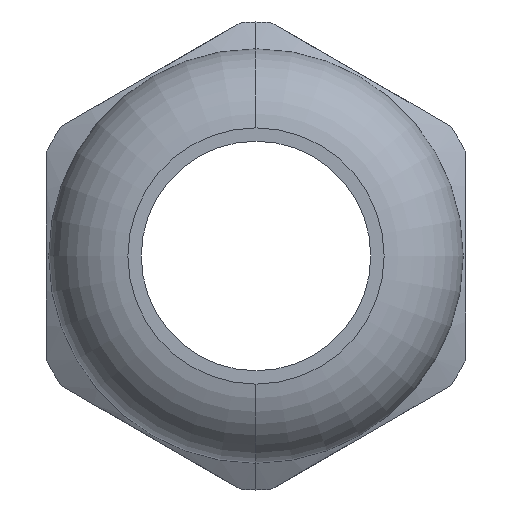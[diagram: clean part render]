
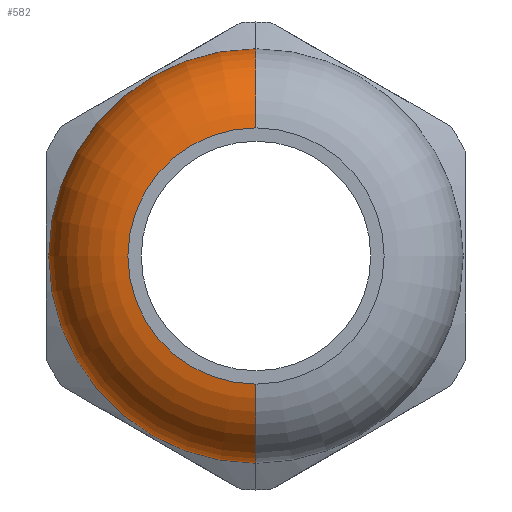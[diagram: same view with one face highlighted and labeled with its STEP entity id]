
A CAD part, left-side view. The second image highlights one B-rep face of the part: STEP entity #582.
In plain terms, the highlighted toroidal (fillet/blend) face has major radius 6.731 mm and minor radius 5.08 mm.
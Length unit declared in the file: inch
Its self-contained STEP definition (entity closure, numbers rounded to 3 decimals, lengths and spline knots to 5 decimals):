
#269 = EDGE_CURVE ( 'NONE', #270, #526, #3051, .T. ) ;
#270 = VERTEX_POINT ( 'NONE', #3046 ) ;
#526 = VERTEX_POINT ( 'NONE', #3851 ) ;
#582 = ADVANCED_FACE ( 'NONE', ( #4095 ), #4075, .T. ) ;
#583 = EDGE_LOOP ( 'NONE', ( #584, #585, #688, #668 ) ) ;
#584 = ORIENTED_EDGE ( 'NONE', *, *, #269, .T. ) ;
#585 = ORIENTED_EDGE ( 'NONE', *, *, #698, .T. ) ;
#668 = ORIENTED_EDGE ( 'NONE', *, *, #669, .F. ) ;
#669 = EDGE_CURVE ( 'NONE', #270, #690, #4434, .T. ) ;
#688 = ORIENTED_EDGE ( 'NONE', *, *, #689, .F. ) ;
#689 = EDGE_CURVE ( 'NONE', #690, #699, #5665, .T. ) ;
#690 = VERTEX_POINT ( 'NONE', #5660 ) ;
#698 = EDGE_CURVE ( 'NONE', #526, #699, #5759, .T. ) ;
#699 = VERTEX_POINT ( 'NONE', #5754 ) ;
#3046 = CARTESIAN_POINT ( 'NONE',  ( 0.19873, 0., 0.465 ) ) ;
#3047 = DIRECTION ( 'NONE',  ( 0., 0., 1. ) ) ;
#3048 = DIRECTION ( 'NONE',  ( -1., 0., 0. ) ) ;
#3049 = CARTESIAN_POINT ( 'NONE',  ( 0.19873, 0., 0. ) ) ;
#3050 = AXIS2_PLACEMENT_3D ( 'NONE', #3049, #3048, #3047 ) ;
#3051 = CIRCLE ( 'NONE', #3050, 0.465 ) ;
#3851 = CARTESIAN_POINT ( 'NONE',  ( 0.19873, 0., -0.465 ) ) ;
#4072 = DIRECTION ( 'NONE',  ( 0., 0., 1. ) ) ;
#4073 = DIRECTION ( 'NONE',  ( -1., 0., 0. ) ) ;
#4074 = AXIS2_PLACEMENT_3D ( 'NONE', #4076, #4073, #4072 ) ;
#4075 = TOROIDAL_SURFACE ( 'NONE', #4074, 0.265, 0.2 ) ;
#4076 = CARTESIAN_POINT ( 'NONE',  ( 0.19873, 0., 0. ) ) ;
#4095 = FACE_OUTER_BOUND ( 'NONE', #583, .T. ) ;
#4434 = CIRCLE ( 'NONE', #4444, 0.2 ) ;
#4437 = CARTESIAN_POINT ( 'NONE',  ( 0.19873, 0., 0.265 ) ) ;
#4439 = DIRECTION ( 'NONE',  ( 0., -1., 0. ) ) ;
#4442 = DIRECTION ( 'NONE',  ( 0., 0., -1. ) ) ;
#4444 = AXIS2_PLACEMENT_3D ( 'NONE', #4437, #4439, #4442 ) ;
#5660 = CARTESIAN_POINT ( 'NONE',  ( 0., 0., 0.2875 ) ) ;
#5661 = DIRECTION ( 'NONE',  ( 0., 0., 1. ) ) ;
#5662 = DIRECTION ( 'NONE',  ( -1., 0., 0. ) ) ;
#5663 = CARTESIAN_POINT ( 'NONE',  ( 0., 0., 0. ) ) ;
#5664 = AXIS2_PLACEMENT_3D ( 'NONE', #5663, #5662, #5661 ) ;
#5665 = CIRCLE ( 'NONE', #5664, 0.2875 ) ;
#5754 = CARTESIAN_POINT ( 'NONE',  ( 0., 0., -0.2875 ) ) ;
#5755 = DIRECTION ( 'NONE',  ( 0., 0., 1. ) ) ;
#5756 = DIRECTION ( 'NONE',  ( 0., 1., 0. ) ) ;
#5757 = CARTESIAN_POINT ( 'NONE',  ( 0.19873, 0., -0.265 ) ) ;
#5758 = AXIS2_PLACEMENT_3D ( 'NONE', #5757, #5756, #5755 ) ;
#5759 = CIRCLE ( 'NONE', #5758, 0.2 ) ;
